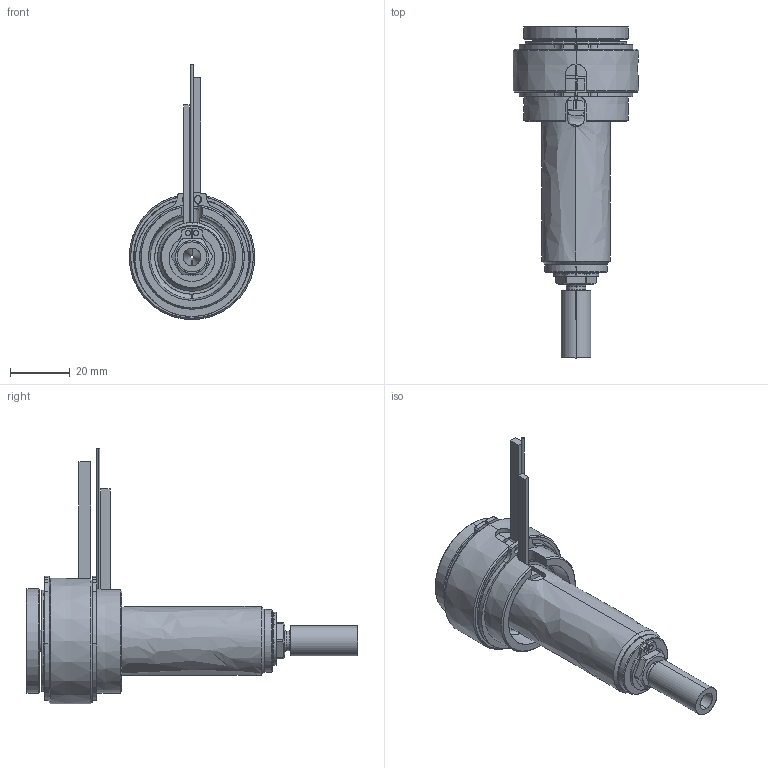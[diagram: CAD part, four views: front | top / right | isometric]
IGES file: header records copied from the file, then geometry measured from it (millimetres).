
Start section: SolidWorks IGES file using analytic representation for surfaces
Global section: file name: C:\Users\luca.EMPAD\Desktop\TEM\UGBE3501-S-A-P-5 [Ød-1.0 P-20 ØC-7.0].IGS; native system: SolidWorks 2012; preprocessor: SolidWorks 2012; author: luca; date: 120330.140347; units: millimetre
Bounding box: 42 x 111 x 85.4 mm (x, y, z)
Surface area: 28580.4 mm2 (no closed solid volume)
Topology: 0 solids, 0 shells, 191 faces, 3534 edges, 3534 vertices
Faces by surface type: revolution 122, bspline 69
